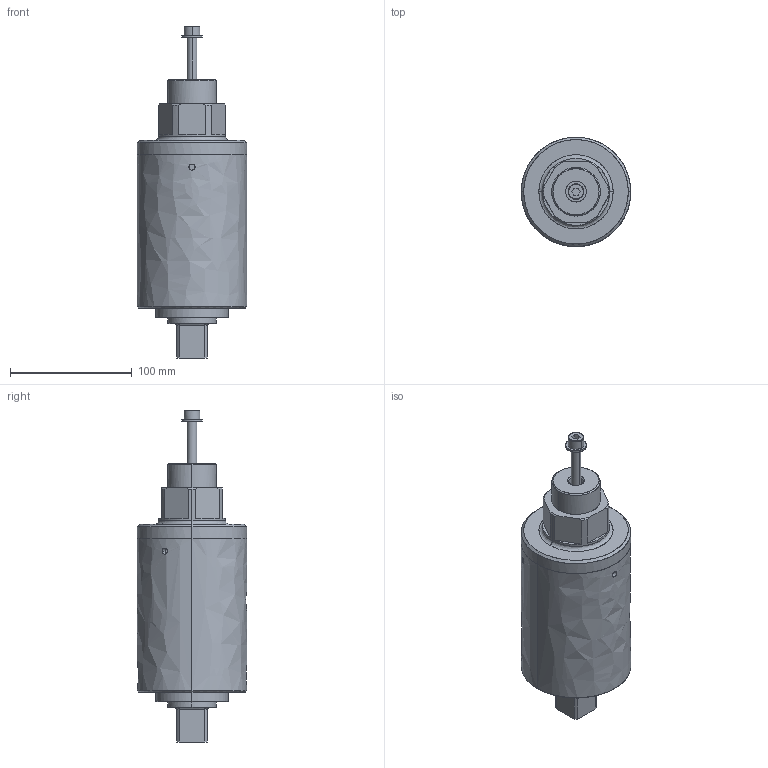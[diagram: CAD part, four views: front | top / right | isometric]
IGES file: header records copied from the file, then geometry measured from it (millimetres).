
Start section: Comment
Global section: file name: 8059094017.igs; native system:  By UGS Corp.; preprocessor: XPlus GENERIC/IGES 3.0; author: Author; organization: Title; date: 20110214.102221; units: millimetre
Bounding box: 90 x 90 x 273 mm (x, y, z)
Surface area: 84216.3 mm2 (no closed solid volume)
Topology: 0 solids, 0 shells, 116 faces, 518 edges, 518 vertices
Faces by surface type: bspline 116
